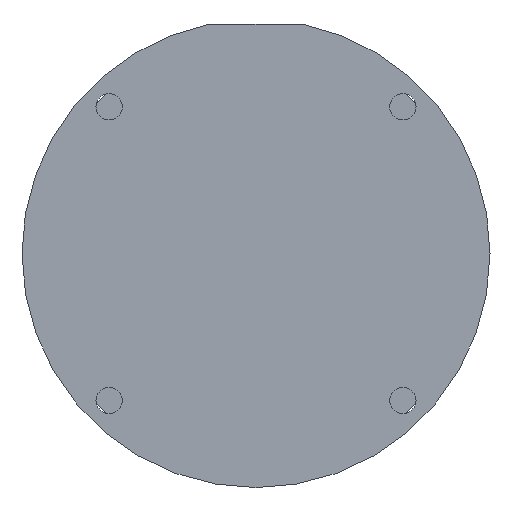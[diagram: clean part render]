
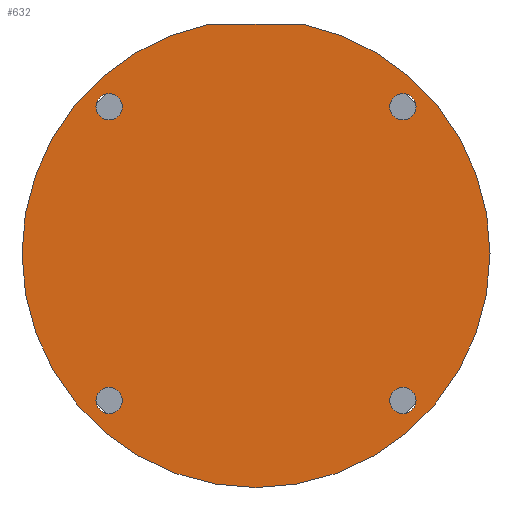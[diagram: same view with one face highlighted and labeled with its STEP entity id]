
A CAD part, front view. The second image highlights one B-rep face of the part: STEP entity #632.
In plain terms, the highlighted planar face has unit normal (0, -1, 0).
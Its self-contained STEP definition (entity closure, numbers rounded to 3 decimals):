
#12 = ORIENTED_EDGE ( 'NONE', *, *, #947, .T. ) ;
#14 = DIRECTION ( 'NONE',  ( -1., 0., 0. ) ) ;
#29 = CARTESIAN_POINT ( 'NONE',  ( 9.849, 0., 48. ) ) ;
#66 = FACE_OUTER_BOUND ( 'NONE', #908, .T. ) ;
#82 = DIRECTION ( 'NONE',  ( -1., 0., 0. ) ) ;
#96 = CARTESIAN_POINT ( 'NONE',  ( -30.759, 0., 30.759 ) ) ;
#108 = CARTESIAN_POINT ( 'NONE',  ( 30.759, 0., 30.759 ) ) ;
#114 = EDGE_CURVE ( 'NONE', #563, #543, #333, .T. ) ;
#127 = FACE_BOUND ( 'NONE', #895, .T. ) ;
#138 = DIRECTION ( 'NONE',  ( 0., 1., 0. ) ) ;
#142 = ORIENTED_EDGE ( 'NONE', *, *, #1080, .T. ) ;
#150 = AXIS2_PLACEMENT_3D ( 'NONE', #1415, #709, #14 ) ;
#190 = ORIENTED_EDGE ( 'NONE', *, *, #1123, .F. ) ;
#204 = DIRECTION ( 'NONE',  ( 1., 0., 0. ) ) ;
#207 = DIRECTION ( 'NONE',  ( 0., 0., 1. ) ) ;
#217 = DIRECTION ( 'NONE',  ( 0., 0., 1. ) ) ;
#222 = EDGE_LOOP ( 'NONE', ( #1141, #12 ) ) ;
#232 = ORIENTED_EDGE ( 'NONE', *, *, #741, .T. ) ;
#236 = EDGE_CURVE ( 'NONE', #1446, #970, #797, .T. ) ;
#238 = DIRECTION ( 'NONE',  ( 0., 1., 0. ) ) ;
#277 = AXIS2_PLACEMENT_3D ( 'NONE', #1238, #527, #1353 ) ;
#308 = AXIS2_PLACEMENT_3D ( 'NONE', #426, #1252, #535 ) ;
#316 = CIRCLE ( 'NONE', #1148, 2.75 ) ;
#327 = ORIENTED_EDGE ( 'NONE', *, *, #236, .F. ) ;
#332 = VERTEX_POINT ( 'NONE', #992 ) ;
#333 = CIRCLE ( 'NONE', #1195, 2.75 ) ;
#346 = EDGE_CURVE ( 'NONE', #543, #563, #690, .T. ) ;
#387 = FACE_BOUND ( 'NONE', #1440, .T. ) ;
#391 = EDGE_CURVE ( 'NONE', #1179, #332, #1256, .T. ) ;
#410 = CARTESIAN_POINT ( 'NONE',  ( 49., 0., 0. ) ) ;
#411 = CARTESIAN_POINT ( 'NONE',  ( -30.759, 0., -30.759 ) ) ;
#426 = CARTESIAN_POINT ( 'NONE',  ( -30.759, 0., -30.759 ) ) ;
#433 = CARTESIAN_POINT ( 'NONE',  ( 30.759, 0., 28.009 ) ) ;
#443 = DIRECTION ( 'NONE',  ( 0., 1., 0. ) ) ;
#447 = EDGE_LOOP ( 'NONE', ( #232, #142 ) ) ;
#454 = VERTEX_POINT ( 'NONE', #29 ) ;
#457 = VERTEX_POINT ( 'NONE', #410 ) ;
#461 = AXIS2_PLACEMENT_3D ( 'NONE', #952, #238, #1063 ) ;
#478 = CARTESIAN_POINT ( 'NONE',  ( -60., 0., 48. ) ) ;
#524 = DIRECTION ( 'NONE',  ( 0., 0., 1. ) ) ;
#526 = AXIS2_PLACEMENT_3D ( 'NONE', #108, #935, #217 ) ;
#527 = DIRECTION ( 'NONE',  ( 0., 1., 0. ) ) ;
#535 = DIRECTION ( 'NONE',  ( 0., 0., 1. ) ) ;
#543 = VERTEX_POINT ( 'NONE', #433 ) ;
#563 = VERTEX_POINT ( 'NONE', #787 ) ;
#580 = CIRCLE ( 'NONE', #308, 2.75 ) ;
#585 = CARTESIAN_POINT ( 'NONE',  ( -49., 0., 0. ) ) ;
#594 = ORIENTED_EDGE ( 'NONE', *, *, #346, .T. ) ;
#632 = ADVANCED_FACE ( 'NONE', ( #127, #387, #1343, #1009, #66 ), #677, .T. ) ;
#657 = CIRCLE ( 'NONE', #1363, 2.75 ) ;
#658 = VERTEX_POINT ( 'NONE', #1035 ) ;
#659 = EDGE_CURVE ( 'NONE', #332, #1179, #657, .T. ) ;
#665 = DIRECTION ( 'NONE',  ( 0., 1., 0. ) ) ;
#677 = PLANE ( 'NONE',  #1435 ) ;
#690 = CIRCLE ( 'NONE', #526, 2.75 ) ;
#696 = EDGE_CURVE ( 'NONE', #457, #1446, #933, .T. ) ;
#709 = DIRECTION ( 'NONE',  ( 0., 1., 0. ) ) ;
#731 = CIRCLE ( 'NONE', #277, 2.75 ) ;
#741 = EDGE_CURVE ( 'NONE', #815, #1221, #580, .T. ) ;
#774 = CARTESIAN_POINT ( 'NONE',  ( -30.759, 0., -28.009 ) ) ;
#777 = DIRECTION ( 'NONE',  ( 0., 1., 0. ) ) ;
#787 = CARTESIAN_POINT ( 'NONE',  ( 30.759, 0., 33.509 ) ) ;
#797 = CIRCLE ( 'NONE', #1417, 49. ) ;
#805 = VECTOR ( 'NONE', #941, 1000. ) ;
#815 = VERTEX_POINT ( 'NONE', #774 ) ;
#832 = AXIS2_PLACEMENT_3D ( 'NONE', #1144, #443, #1271 ) ;
#833 = CARTESIAN_POINT ( 'NONE',  ( 30.759, 0., 30.759 ) ) ;
#839 = ORIENTED_EDGE ( 'NONE', *, *, #391, .T. ) ;
#861 = ORIENTED_EDGE ( 'NONE', *, *, #1297, .F. ) ;
#895 = EDGE_LOOP ( 'NONE', ( #1070, #594 ) ) ;
#908 = EDGE_LOOP ( 'NONE', ( #190, #861, #327, #1163 ) ) ;
#914 = CARTESIAN_POINT ( 'NONE',  ( 30.759, 0., -33.509 ) ) ;
#917 = DIRECTION ( 'NONE',  ( 0., -1., 0. ) ) ;
#923 = DIRECTION ( 'NONE',  ( 0., 1., 0. ) ) ;
#933 = CIRCLE ( 'NONE', #150, 49. ) ;
#935 = DIRECTION ( 'NONE',  ( 0., 1., 0. ) ) ;
#941 = DIRECTION ( 'NONE',  ( 1., 0., 0. ) ) ;
#947 = EDGE_CURVE ( 'NONE', #1201, #658, #731, .T. ) ;
#952 = CARTESIAN_POINT ( 'NONE',  ( 30.759, 0., -30.759 ) ) ;
#966 = DIRECTION ( 'NONE',  ( 0., 0., 1. ) ) ;
#970 = VERTEX_POINT ( 'NONE', #1002 ) ;
#973 = CIRCLE ( 'NONE', #1459, 49. ) ;
#992 = CARTESIAN_POINT ( 'NONE',  ( -30.759, 0., 28.009 ) ) ;
#1002 = CARTESIAN_POINT ( 'NONE',  ( -9.849, 0., 48. ) ) ;
#1009 = FACE_BOUND ( 'NONE', #447, .T. ) ;
#1035 = CARTESIAN_POINT ( 'NONE',  ( 30.759, 0., -28.009 ) ) ;
#1053 = CARTESIAN_POINT ( 'NONE',  ( -30.759, 0., -33.509 ) ) ;
#1063 = DIRECTION ( 'NONE',  ( 0., 0., 1. ) ) ;
#1070 = ORIENTED_EDGE ( 'NONE', *, *, #114, .T. ) ;
#1080 = EDGE_CURVE ( 'NONE', #1221, #815, #316, .T. ) ;
#1112 = CIRCLE ( 'NONE', #461, 2.75 ) ;
#1123 = EDGE_CURVE ( 'NONE', #454, #457, #973, .T. ) ;
#1141 = ORIENTED_EDGE ( 'NONE', *, *, #1481, .T. ) ;
#1142 = CARTESIAN_POINT ( 'NONE',  ( -30.759, 0., 33.509 ) ) ;
#1144 = CARTESIAN_POINT ( 'NONE',  ( -30.759, 0., 30.759 ) ) ;
#1148 = AXIS2_PLACEMENT_3D ( 'NONE', #411, #1235, #524 ) ;
#1162 = LINE ( 'NONE', #478, #805 ) ;
#1163 = ORIENTED_EDGE ( 'NONE', *, *, #696, .F. ) ;
#1179 = VERTEX_POINT ( 'NONE', #1142 ) ;
#1195 = AXIS2_PLACEMENT_3D ( 'NONE', #833, #138, #966 ) ;
#1201 = VERTEX_POINT ( 'NONE', #914 ) ;
#1221 = VERTEX_POINT ( 'NONE', #1053 ) ;
#1235 = DIRECTION ( 'NONE',  ( 0., 1., 0. ) ) ;
#1238 = CARTESIAN_POINT ( 'NONE',  ( 30.759, 0., -30.759 ) ) ;
#1252 = DIRECTION ( 'NONE',  ( 0., 1., 0. ) ) ;
#1256 = CIRCLE ( 'NONE', #832, 2.75 ) ;
#1271 = DIRECTION ( 'NONE',  ( 0., 0., 1. ) ) ;
#1297 = EDGE_CURVE ( 'NONE', #970, #454, #1162, .T. ) ;
#1343 = FACE_BOUND ( 'NONE', #222, .T. ) ;
#1353 = DIRECTION ( 'NONE',  ( 0., 0., 1. ) ) ;
#1363 = AXIS2_PLACEMENT_3D ( 'NONE', #96, #923, #207 ) ;
#1370 = CARTESIAN_POINT ( 'NONE',  ( 0., 0., 0. ) ) ;
#1379 = CARTESIAN_POINT ( 'NONE',  ( 0., 0., 0. ) ) ;
#1415 = CARTESIAN_POINT ( 'NONE',  ( 0., 0., 0. ) ) ;
#1417 = AXIS2_PLACEMENT_3D ( 'NONE', #1491, #777, #82 ) ;
#1435 = AXIS2_PLACEMENT_3D ( 'NONE', #1379, #917, #204 ) ;
#1440 = EDGE_LOOP ( 'NONE', ( #839, #1511 ) ) ;
#1446 = VERTEX_POINT ( 'NONE', #585 ) ;
#1459 = AXIS2_PLACEMENT_3D ( 'NONE', #1370, #665, #1490 ) ;
#1481 = EDGE_CURVE ( 'NONE', #658, #1201, #1112, .T. ) ;
#1490 = DIRECTION ( 'NONE',  ( -1., 0., 0. ) ) ;
#1491 = CARTESIAN_POINT ( 'NONE',  ( 0., 0., 0. ) ) ;
#1511 = ORIENTED_EDGE ( 'NONE', *, *, #659, .T. ) ;
